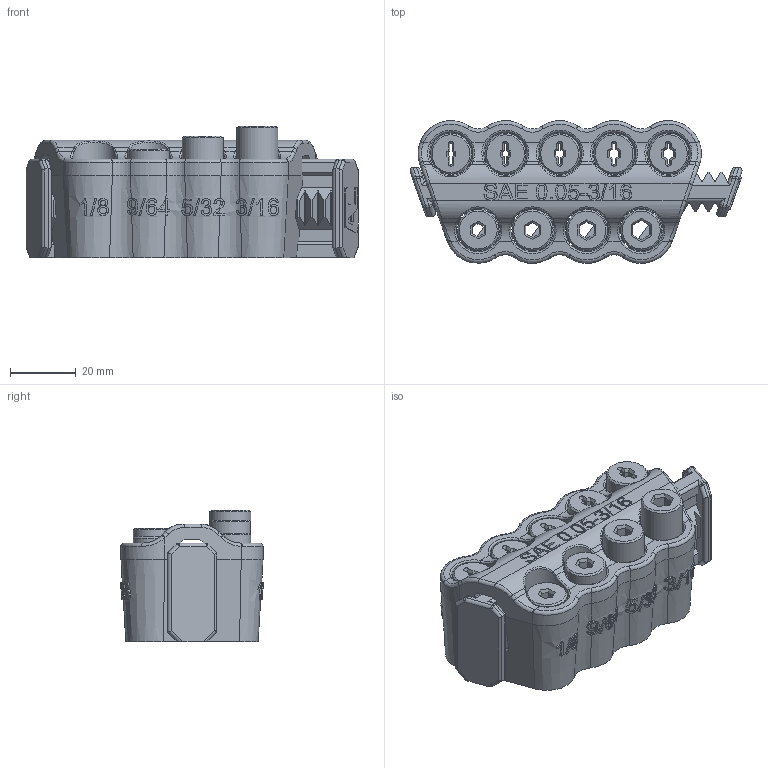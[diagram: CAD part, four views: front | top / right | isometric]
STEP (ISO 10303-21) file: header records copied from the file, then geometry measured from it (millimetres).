
FILE_DESCRIPTION(/* description */ (''),/* implementation_level */ '2;1');
FILE_NAME(/* name */ 'C:/Users/cookn/OneDrive/Documents/Allen Key Holder Files/SAE 005-316.step',/* time_stamp */ '2021-08-23T11:34:28-04:00',/* author */ (''),/* organization */ (''),/* preprocessor_version */ 'ST-DEVELOPER v18.1',/* originating_system */ 'Autodesk Translation Framework v10.9.0.1377',/* authorisation */ '');
FILE_SCHEMA (('AUTOMOTIVE_DESIGN { 1 0 10303 214 3 1 1 }'));
Products named in the file (11): SAE 0.05 - 3/16; Rack 4 v7; Gear 4 v5; Gear 4 v5 (1); Gear 4 v5 (2); Gear 4 v5 (3); Gear 4 v5 (4); Gear 4 v5 (5); Gear 4 v5 (6); Gear 4 v5 (7); Gear 4 v5 (8)
Assembly tree (10 placements, depth 2):
  SAE 0.05 - 3/16
    Rack 4 v7
    Gear 4 v5
    Gear 4 v5 (1)
    Gear 4 v5 (2)
    Gear 4 v5 (3)
    Gear 4 v5 (4)
    Gear 4 v5 (5)
    Gear 4 v5 (6)
    Gear 4 v5 (7)
    Gear 4 v5 (8)
Bounding box: 100.8 x 43.33 x 40 mm (x, y, z)
Volume: 88804.9 mm3; surface area: 56504.4 mm2
Topology: 11 solids, 11 shells, 3195 faces, 8199 edges, 5038 vertices
Faces by surface type: bspline 1463, plane 1221, cylinder 268, cone 210, torus 25, sphere 8
Full cylindrical faces by diameter (mm): 9 x18, 9.8 x18, 12.5 x18, 13.3 x18
Entity records: 456441 total; most frequent: CARTESIAN_POINT 391296, ORIENTED_EDGE 16398, DIRECTION 9077, EDGE_CURVE 8199, VERTEX_POINT 5038, LINE 3963, VECTOR 3963, EDGE_LOOP 3261
